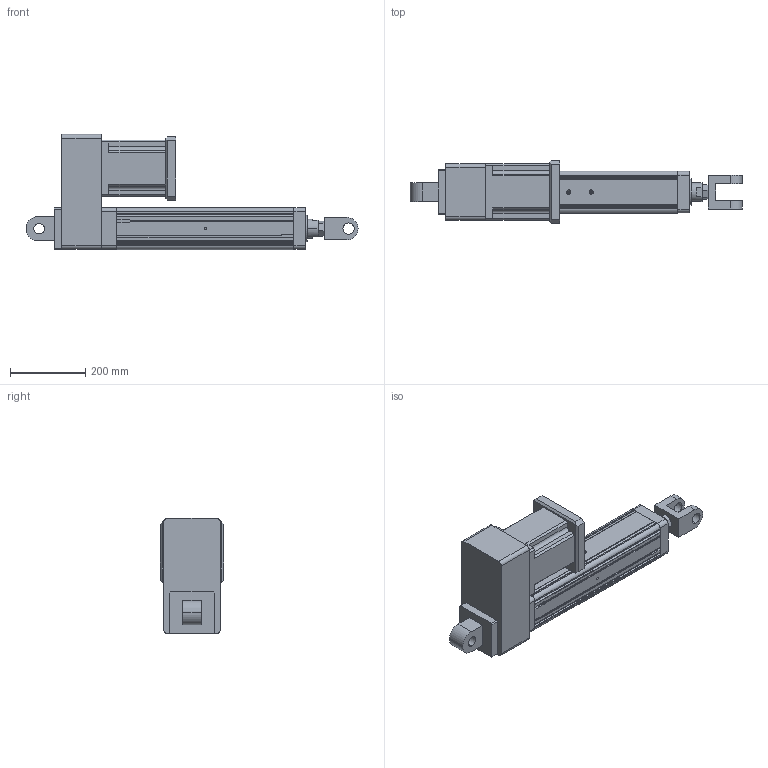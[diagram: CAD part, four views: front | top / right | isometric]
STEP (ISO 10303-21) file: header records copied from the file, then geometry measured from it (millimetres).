
FILE_DESCRIPTION (( 'STEP AP203' ), '1' );
FILE_NAME ('YRJ110-L300-H6K4.STEP', '2020-01-04T06:54:51', ( 'User' ), ( 'China' ), 'SwSTEP 2.0', 'SolidWorks 2016', '' );
FILE_SCHEMA (( 'CONFIG_CONTROL_DESIGN' ));
Length unit declared in the file: millimetre
Products named in the file (8): H6-110; H3-110-2; YRJ110-L300-H6K4; 095-100俴最倰第; 萇儂碟-110; 142熬厒儂; K4-110; H5-110-1
Assembly tree (7 placements, depth 2):
  YRJ110-L300-H6K4
    095-100俴最倰第
    萇儂碟-110
    142熬厒儂
    K4-110
    H5-110-1
    H6-110
    H3-110-2
Bounding box: 881 x 168 x 305.5 mm (x, y, z)
Volume: 12433062.7 mm3; surface area: 982627.6 mm2
Topology: 7 solids, 7 shells, 336 faces, 919 edges, 595 vertices
Faces by surface type: plane 191, cylinder 118, cone 27
Entity records: 11712 total; most frequent: CARTESIAN_POINT 2184, DIRECTION 1824, ORIENTED_EDGE 1806, EDGE_CURVE 903, VECTOR 630, LINE 630, AXIS2_PLACEMENT_3D 597, VERTEX_POINT 595
